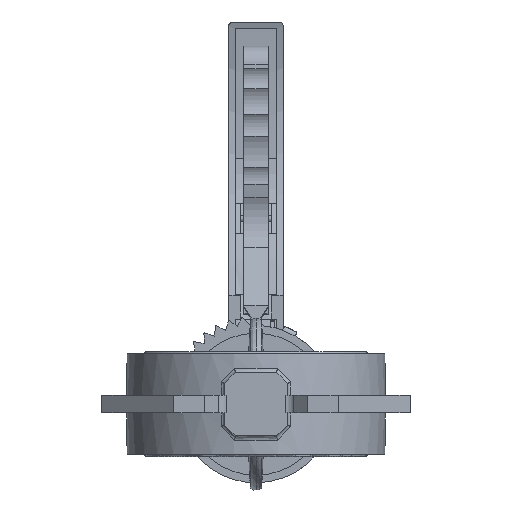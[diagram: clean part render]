
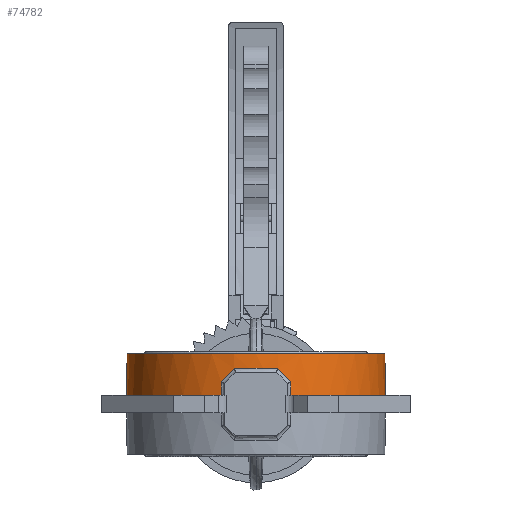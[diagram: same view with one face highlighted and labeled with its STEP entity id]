
A CAD part, front view. The second image highlights one B-rep face of the part: STEP entity #74782.
In plain terms, the highlighted conical face has half-angle 1 degrees and reference radius 59.332 mm.
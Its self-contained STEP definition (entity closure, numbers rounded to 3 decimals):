
#1175 = LINE ( 'NONE', #58090, #44719 ) ;
#1608 = CARTESIAN_POINT ( 'NONE',  ( 0., 0., 16.465 ) ) ;
#3697 = CARTESIAN_POINT ( 'NONE',  ( 9.99, -58.264, 16.465 ) ) ;
#4469 = CARTESIAN_POINT ( 'NONE',  ( 15.961, -57.03, 10.294 ) ) ;
#5578 = CARTESIAN_POINT ( 'NONE',  ( -59., 0., 23. ) ) ;
#5815 = CARTESIAN_POINT ( 'NONE',  ( 59.332, 0., 4. ) ) ;
#6230 = CARTESIAN_POINT ( 'NONE',  ( -9.99, -58.264, 16.465 ) ) ;
#7052 = CARTESIAN_POINT ( 'NONE',  ( 0., 0., 4. ) ) ;
#7395 = B_SPLINE_CURVE_WITH_KNOTS ( 'NONE', 3,
 ( #16390, #76045, #57834, #16015 ),
 .UNSPECIFIED., .F., .F.,
 ( 4, 4 ),
 ( 0., 1. ),
 .UNSPECIFIED. ) ;
#8000 = CARTESIAN_POINT ( 'NONE',  ( 59., 0., 23. ) ) ;
#8017 = EDGE_LOOP ( 'NONE', ( #9330, #71342, #43379, #16096, #26584, #29337, #18333, #12703, #22716, #9504 ) ) ;
#9330 = ORIENTED_EDGE ( 'NONE', *, *, #70624, .F. ) ;
#9504 = ORIENTED_EDGE ( 'NONE', *, *, #32994, .T. ) ;
#10064 = CARTESIAN_POINT ( 'NONE',  ( 12.183, -57.928, 14.199 ) ) ;
#12703 = ORIENTED_EDGE ( 'NONE', *, *, #47614, .T. ) ;
#14703 = CARTESIAN_POINT ( 'NONE',  ( -15.961, -57.03, 10.294 ) ) ;
#16015 = CARTESIAN_POINT ( 'NONE',  ( -15.961, -57.03, 10.294 ) ) ;
#16096 = ORIENTED_EDGE ( 'NONE', *, *, #38460, .T. ) ;
#16390 = CARTESIAN_POINT ( 'NONE',  ( -15.962, -57.144, 4. ) ) ;
#16465 = EDGE_CURVE ( 'NONE', #53765, #32903, #7395, .T. ) ;
#17241 = DIRECTION ( 'NONE',  ( -1., 0., 0. ) ) ;
#18333 = ORIENTED_EDGE ( 'NONE', *, *, #45266, .T. ) ;
#20689 = CONICAL_SURFACE ( 'NONE', #67741, 59.332, 0.017 ) ;
#22716 = ORIENTED_EDGE ( 'NONE', *, *, #63509, .T. ) ;
#22802 = CARTESIAN_POINT ( 'NONE',  ( 14.173, -57.497, 12.142 ) ) ;
#23407 = AXIS2_PLACEMENT_3D ( 'NONE', #1608, #69279, #50568 ) ;
#24026 = DIRECTION ( 'NONE',  ( 0., 0., 1. ) ) ;
#24054 = CIRCLE ( 'NONE', #69855, 59.332 ) ;
#24582 = CARTESIAN_POINT ( 'NONE',  ( -12.183, -57.928, 14.199 ) ) ;
#26584 = ORIENTED_EDGE ( 'NONE', *, *, #16465, .T. ) ;
#27795 = DIRECTION ( 'NONE',  ( -0.017, 0., -1. ) ) ;
#28866 = CARTESIAN_POINT ( 'NONE',  ( 15.962, -57.144, 4. ) ) ;
#29337 = ORIENTED_EDGE ( 'NONE', *, *, #65001, .T. ) ;
#29749 = CARTESIAN_POINT ( 'NONE',  ( -15.961, -57.03, 10.294 ) ) ;
#30344 = DIRECTION ( 'NONE',  ( 0., 0., 1. ) ) ;
#31715 = CARTESIAN_POINT ( 'NONE',  ( 15.962, -57.144, 4. ) ) ;
#32903 = VERTEX_POINT ( 'NONE', #14703 ) ;
#32994 = EDGE_CURVE ( 'NONE', #37231, #51612, #59296, .T. ) ;
#35101 = AXIS2_PLACEMENT_3D ( 'NONE', #7052, #49653, #66410 ) ;
#35405 = EDGE_CURVE ( 'NONE', #64248, #57237, #51854, .T. ) ;
#36304 = CARTESIAN_POINT ( 'NONE',  ( -15.962, -57.144, 4. ) ) ;
#37231 = VERTEX_POINT ( 'NONE', #28866 ) ;
#37881 = AXIS2_PLACEMENT_3D ( 'NONE', #59445, #30344, #17241 ) ;
#38113 = CARTESIAN_POINT ( 'NONE',  ( 15.962, -57.106, 6.098 ) ) ;
#38210 = CARTESIAN_POINT ( 'NONE',  ( 15.961, -57.03, 10.294 ) ) ;
#38460 = EDGE_CURVE ( 'NONE', #58785, #53765, #24054, .T. ) ;
#40448 = DIRECTION ( 'NONE',  ( -1., 0., 0. ) ) ;
#40950 = VERTEX_POINT ( 'NONE', #38210 ) ;
#41559 = DIRECTION ( 'NONE',  ( -1., 0., 0. ) ) ;
#43284 = CARTESIAN_POINT ( 'NONE',  ( 15.961, -57.068, 8.196 ) ) ;
#43379 = ORIENTED_EDGE ( 'NONE', *, *, #63249, .T. ) ;
#43691 = CARTESIAN_POINT ( 'NONE',  ( 15.961, -57.03, 10.294 ) ) ;
#44719 = VECTOR ( 'NONE', #27795, 1000. ) ;
#44838 = B_SPLINE_CURVE_WITH_KNOTS ( 'NONE', 3,
 ( #3697, #10064, #22802, #4469 ),
 .UNSPECIFIED., .F., .F.,
 ( 4, 4 ),
 ( 0., 1. ),
 .UNSPECIFIED. ) ;
#44862 = CARTESIAN_POINT ( 'NONE',  ( -59.332, 0., 4. ) ) ;
#45266 = EDGE_CURVE ( 'NONE', #68220, #69237, #67924, .T. ) ;
#47614 = EDGE_CURVE ( 'NONE', #69237, #40950, #44838, .T. ) ;
#48514 = CARTESIAN_POINT ( 'NONE',  ( -9.99, -58.264, 16.465 ) ) ;
#48886 = DIRECTION ( 'NONE',  ( 0.017, 0., -1. ) ) ;
#49653 = DIRECTION ( 'NONE',  ( 0., 0., 1. ) ) ;
#50568 = DIRECTION ( 'NONE',  ( 1., 0., 0. ) ) ;
#51612 = VERTEX_POINT ( 'NONE', #5815 ) ;
#51854 = CIRCLE ( 'NONE', #37881, 59. ) ;
#52393 = DIRECTION ( 'NONE',  ( 0., 0., -1. ) ) ;
#53765 = VERTEX_POINT ( 'NONE', #36304 ) ;
#54281 = CARTESIAN_POINT ( 'NONE',  ( 0., 0., 4. ) ) ;
#54437 = CARTESIAN_POINT ( 'NONE',  ( 9.99, -58.264, 16.465 ) ) ;
#57237 = VERTEX_POINT ( 'NONE', #8000 ) ;
#57834 = CARTESIAN_POINT ( 'NONE',  ( -15.961, -57.068, 8.196 ) ) ;
#57987 = B_SPLINE_CURVE_WITH_KNOTS ( 'NONE', 3,
 ( #29749, #66384, #24582, #6230 ),
 .UNSPECIFIED., .F., .F.,
 ( 4, 4 ),
 ( 0., 1. ),
 .UNSPECIFIED. ) ;
#58090 = CARTESIAN_POINT ( 'NONE',  ( -59.332, 0., 4. ) ) ;
#58785 = VERTEX_POINT ( 'NONE', #44862 ) ;
#59296 = CIRCLE ( 'NONE', #35101, 59.332 ) ;
#59445 = CARTESIAN_POINT ( 'NONE',  ( 0., 0., 23. ) ) ;
#60843 = CARTESIAN_POINT ( 'NONE',  ( 59.332, 0., 4. ) ) ;
#63249 = EDGE_CURVE ( 'NONE', #64248, #58785, #1175, .T. ) ;
#63509 = EDGE_CURVE ( 'NONE', #40950, #37231, #76224, .T. ) ;
#64248 = VERTEX_POINT ( 'NONE', #5578 ) ;
#64356 = FACE_OUTER_BOUND ( 'NONE', #8017, .T. ) ;
#65001 = EDGE_CURVE ( 'NONE', #32903, #68220, #57987, .T. ) ;
#66384 = CARTESIAN_POINT ( 'NONE',  ( -14.173, -57.497, 12.142 ) ) ;
#66410 = DIRECTION ( 'NONE',  ( -1., 0., 0. ) ) ;
#67084 = VECTOR ( 'NONE', #48886, 1000. ) ;
#67741 = AXIS2_PLACEMENT_3D ( 'NONE', #69135, #52393, #40448 ) ;
#67924 = CIRCLE ( 'NONE', #23407, 59.114 ) ;
#68220 = VERTEX_POINT ( 'NONE', #48514 ) ;
#69135 = CARTESIAN_POINT ( 'NONE',  ( 0., 0., 4. ) ) ;
#69237 = VERTEX_POINT ( 'NONE', #54437 ) ;
#69279 = DIRECTION ( 'NONE',  ( 0., 0., 1. ) ) ;
#69855 = AXIS2_PLACEMENT_3D ( 'NONE', #54281, #24026, #41559 ) ;
#70624 = EDGE_CURVE ( 'NONE', #57237, #51612, #74303, .T. ) ;
#71342 = ORIENTED_EDGE ( 'NONE', *, *, #35405, .F. ) ;
#74303 = LINE ( 'NONE', #60843, #67084 ) ;
#74782 = ADVANCED_FACE ( 'NONE', ( #64356 ), #20689, .T. ) ;
#76045 = CARTESIAN_POINT ( 'NONE',  ( -15.962, -57.106, 6.098 ) ) ;
#76224 = B_SPLINE_CURVE_WITH_KNOTS ( 'NONE', 3,
 ( #43691, #43284, #38113, #31715 ),
 .UNSPECIFIED., .F., .F.,
 ( 4, 4 ),
 ( 0., 1. ),
 .UNSPECIFIED. ) ;
